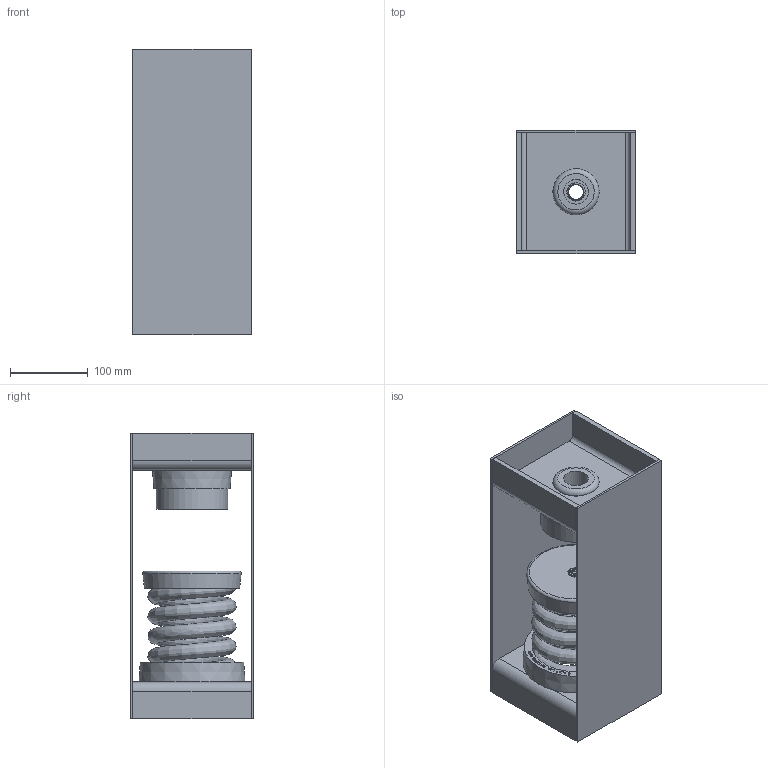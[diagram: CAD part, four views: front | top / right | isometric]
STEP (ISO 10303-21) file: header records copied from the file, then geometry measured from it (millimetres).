
FILE_DESCRIPTION((''),'2;1');
FILE_NAME('C:\2012_Work\Designs\exports\30N\30N-F-2760.stp','2013-06-27T14:57:42',('KShiels'),(''),'Autodesk Inventor 2012','Autodesk Inventor 2012','');
FILE_SCHEMA(('AUTOMOTIVE_DESIGN { 1 0 10303 214 1 1 1 1 }'));
Length unit declared in the file: inch
Products named in the file (14): 30N-F-2760; A-16168-4 HANGER BOX WOS ASSEMBLY; A-16168-4 LONG FLAT; A-16168-4 FORMED CHANNEL C; A-16168-4 FORMED CHANNEL B; A-20474-5R HDDS HANGER ELEMENT; 20474-5A; A-20474-5B; A-20474-5C; A-15954-3R LDS HANGER CUP 4.5 in; A-15954-3R HANGER CUP 4.5 in; A-15954-3R WASHER 4; A-12866-2 4.50 SPRING TOP CASTING; SPRING 30-2760 (FH SILVER)
Assembly tree (14 placements, depth 4):
  30N-F-2760
    A-16168-4 HANGER BOX WOS ASSEMBLY
      A-16168-4 LONG FLAT  x2
      A-16168-4 FORMED CHANNEL C
      A-16168-4 FORMED CHANNEL B
      A-20474-5R HDDS HANGER ELEMENT
        20474-5A
        A-20474-5B
        A-20474-5C
      A-15954-3R LDS HANGER CUP 4.5 in
        A-15954-3R HANGER CUP 4.5 in
        A-15954-3R WASHER 4
      A-12866-2 4.50 SPRING TOP CASTING
    SPRING 30-2760 (FH SILVER)
Bounding box: 152.4 x 158.75 x 368.3 mm (x, y, z)
Volume: 1820010.8 mm3; surface area: 654396.6 mm2
Topology: 11 solids, 12 shells, 1229 faces, 3184 edges, 2112 vertices
Faces by surface type: plane 878, bspline 314, cylinder 31, cone 4, torus 2
Full cylindrical faces by diameter (mm): 23.813 x1, 31.699 x1, 31.75 x1, 41.275 x2, 46.831 x1, 47.625 x1, 82.55 x3, 87.313 x1, 88.9 x2, 92.075 x1, 96.838 x2, 98.425 x2, 112.713 x1, 116.681 x1, 120.65 x2
Entity records: 43548 total; most frequent: CARTESIAN_POINT 15360, ORIENTED_EDGE 6282, DIRECTION 4454, EDGE_CURVE 3141, VECTOR 2408, LINE 2408, VERTEX_POINT 2101, EDGE_LOOP 1402
